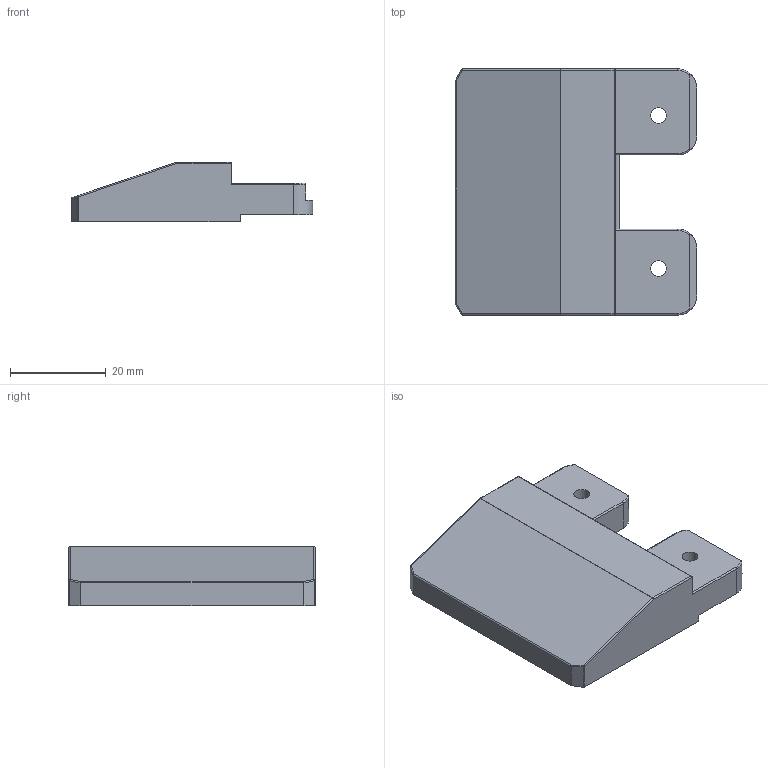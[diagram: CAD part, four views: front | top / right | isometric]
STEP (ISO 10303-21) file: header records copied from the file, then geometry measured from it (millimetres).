
FILE_DESCRIPTION (( 'STEP AP203' ), '1' );
FILE_NAME ('Alurahmenadapter_Kinvaro_F-20_D2879013000~0.step', '2012-05-04T06:18:12', ( 'admin' ), ( 'Hewlett-Packard Company' ), 'SwSTEP 2.0', 'SolidWorks 2011', '' );
FILE_SCHEMA (( 'CONFIG_CONTROL_DESIGN' ));
Length unit declared in the file: millimetre
Products named in the file (1): Alurahmenadapter_Kinvaro_F-20_D2879013000~0
Bounding box: 50.5 x 51.5 x 12.5 mm (x, y, z)
Volume: 8192.1 mm3; surface area: 11614.8 mm2
Topology: 1 solids, 1 shells, 328 faces, 802 edges, 444 vertices
Faces by surface type: cylinder 136, plane 114, sphere 54, cone 12, torus 12
Entity records: 9256 total; most frequent: DIRECTION 1714, CARTESIAN_POINT 1571, ORIENTED_EDGE 1512, EDGE_CURVE 756, AXIS2_PLACEMENT_3D 637, VERTEX_POINT 444, LINE 440, VECTOR 440
